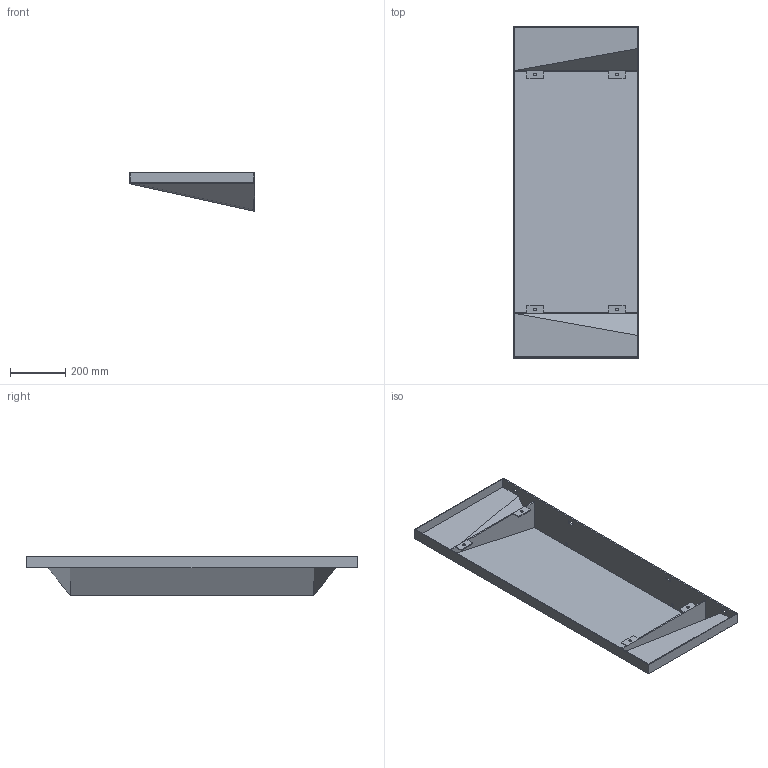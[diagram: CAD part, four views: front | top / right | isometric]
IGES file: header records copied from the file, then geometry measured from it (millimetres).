
Start section: START RECORD GO HERE.
Global section: file name: 2089_3D.igs; native system: DASSAULT SYSTEMES CATIA V5 R19 - www.3ds.com; preprocessor: CATIA Version 5 Release 19 SP 5 ; author: gioge; organization: LAPTOP-G94B6G74; date: 20201024.091253; units: millimetre
Bounding box: 455 x 1200 x 140 mm (x, y, z)
Surface area: 1721474.9 mm2 (no closed solid volume)
Topology: 0 solids, 0 shells, 72 faces, 406 edges, 406 vertices
Faces by surface type: plane 52, revolution 20
